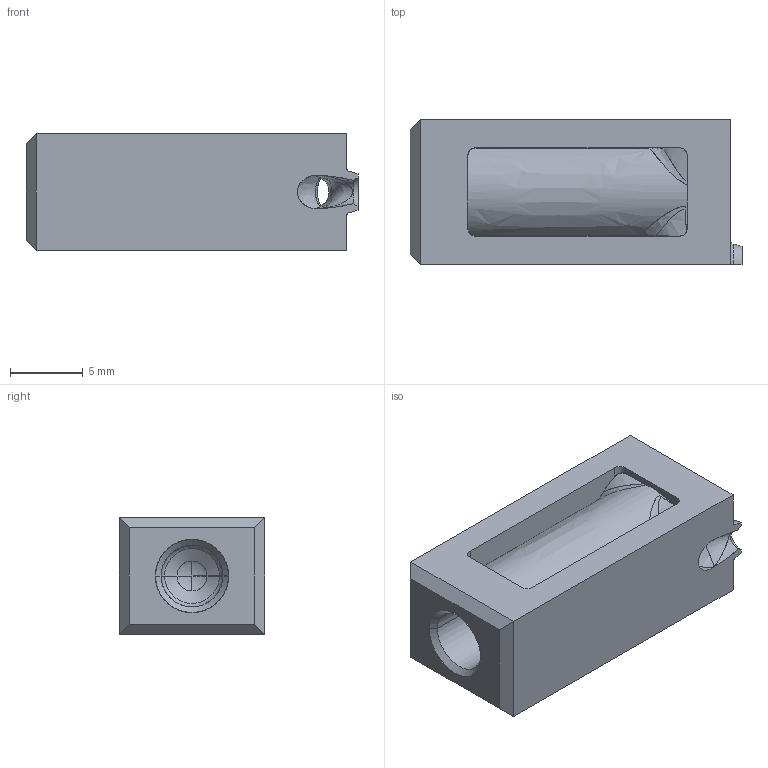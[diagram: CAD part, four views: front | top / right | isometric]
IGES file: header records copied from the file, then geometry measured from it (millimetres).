
Start section: START RECORD GO HERE.
Global section: file name: tgs10-16-s2.igs; native system: DASSAULT SYSTEMES CATIA V5 R20 - www.3ds.com; preprocessor: CATIA Version 5 Release 20 ; author: Utente; organization: NB04-ASUS; date: 20200418.090030; units: millimetre
Bounding box: 22.8 x 10 x 8 mm (x, y, z)
Surface area: 1564.8 mm2 (no closed solid volume)
Topology: 0 solids, 0 shells, 79 faces, 481 edges, 475 vertices
Faces by surface type: revolution 37, plane 21, bspline 21
